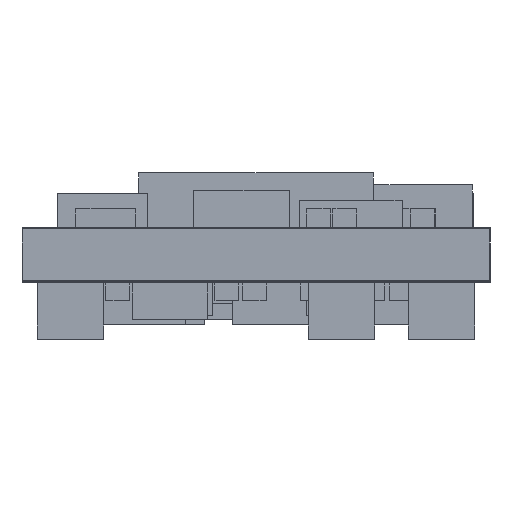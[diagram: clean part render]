
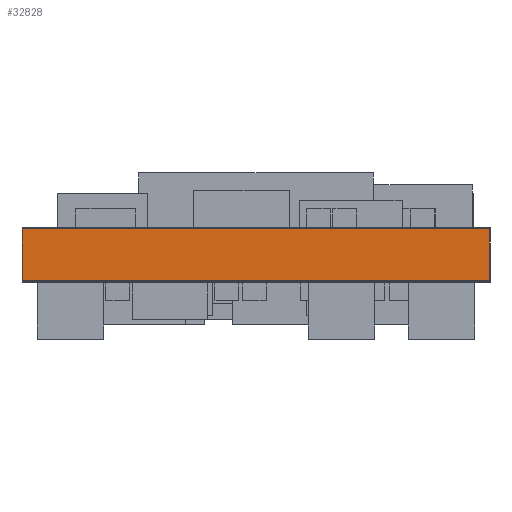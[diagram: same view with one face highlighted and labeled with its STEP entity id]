
A CAD part, left-side view. The second image highlights one B-rep face of the part: STEP entity #32828.
In plain terms, the highlighted face is a extrusion surface.
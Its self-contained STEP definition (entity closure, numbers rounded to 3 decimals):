
#32708 = VERTEX_POINT('',#32709);
#32709 = CARTESIAN_POINT('',(-2.134,1.448,-0.034));
#32715 = EDGE_CURVE('',#32708,#32716,#32718,.T.);
#32716 = VERTEX_POINT('',#32717);
#32717 = CARTESIAN_POINT('',(-2.134,-12.471,-0.034));
#32718 = LINE('',#32719,#32720);
#32719 = CARTESIAN_POINT('',(-2.134,1.448,-0.034));
#32720 = VECTOR('',#32721,1.);
#32721 = DIRECTION('',(0.,-1.,0.));
#32781 = VERTEX_POINT('',#32782);
#32782 = CARTESIAN_POINT('',(-2.134,1.448,-1.579));
#32790 = VERTEX_POINT('',#32791);
#32791 = CARTESIAN_POINT('',(-2.134,-12.471,-1.579));
#32797 = EDGE_CURVE('',#32790,#32781,#32798,.T.);
#32798 = LINE('',#32799,#32800);
#32799 = CARTESIAN_POINT('',(-2.134,-12.471,-1.579));
#32800 = VECTOR('',#32801,1.);
#32801 = DIRECTION('',(0.,1.,0.));
#32814 = EDGE_CURVE('',#32716,#32790,#32815,.T.);
#32815 = LINE('',#32816,#32817);
#32816 = CARTESIAN_POINT('',(-2.134,-12.471,-0.034));
#32817 = VECTOR('',#32818,1.);
#32818 = DIRECTION('',(0.,0.,-1.));
#32828 = ADVANCED_FACE('',(#32829),#32840,.F.);
#32829 = FACE_BOUND('',#32830,.F.);
#32830 = EDGE_LOOP('',(#32831,#32832,#32838,#32839));
#32831 = ORIENTED_EDGE('',*,*,#32715,.F.);
#32832 = ORIENTED_EDGE('',*,*,#32833,.T.);
#32833 = EDGE_CURVE('',#32708,#32781,#32834,.T.);
#32834 = LINE('',#32835,#32836);
#32835 = CARTESIAN_POINT('',(-2.134,1.448,-0.034));
#32836 = VECTOR('',#32837,1.);
#32837 = DIRECTION('',(0.,0.,-1.));
#32838 = ORIENTED_EDGE('',*,*,#32797,.F.);
#32839 = ORIENTED_EDGE('',*,*,#32814,.F.);
#32840 = SURFACE_OF_LINEAR_EXTRUSION('',#32841,#32845);
#32841 = LINE('',#32842,#32843);
#32842 = CARTESIAN_POINT('',(-2.134,-12.471,-1.579));
#32843 = VECTOR('',#32844,1.);
#32844 = DIRECTION('',(0.,0.,1.));
#32845 = VECTOR('',#32846,1.);
#32846 = DIRECTION('',(0.,1.,0.));
